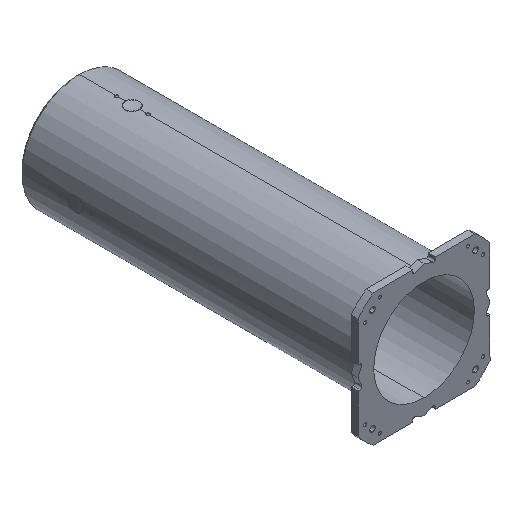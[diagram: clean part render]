
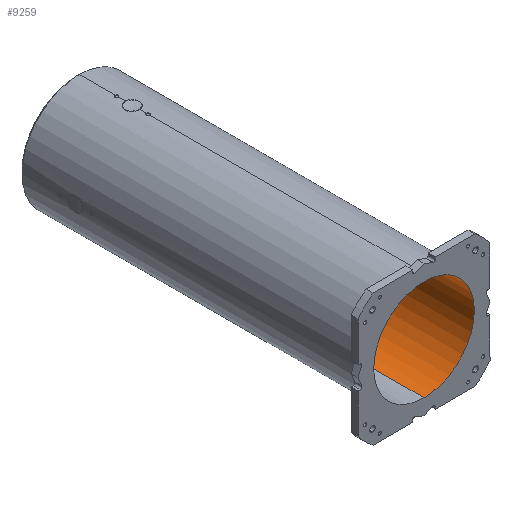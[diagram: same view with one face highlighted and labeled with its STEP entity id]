
A CAD part, isometric view. The second image highlights one B-rep face of the part: STEP entity #9259.
In plain terms, the highlighted cylindrical face has radius 145 mm (diameter 290 mm), a partial arc.
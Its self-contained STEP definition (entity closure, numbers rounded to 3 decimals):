
#91 = CARTESIAN_POINT ( 'NONE',  ( 0., 0., 145. ) ) ;
#275 = DIRECTION ( 'NONE',  ( 0., -1., 0. ) ) ;
#383 = CARTESIAN_POINT ( 'NONE',  ( 0., 0., 0. ) ) ;
#447 = DIRECTION ( 'NONE',  ( 0., 0., -1. ) ) ;
#729 = AXIS2_PLACEMENT_3D ( 'NONE', #383, #4384, #447 ) ;
#874 = CIRCLE ( 'NONE', #3314, 145. ) ;
#1292 = CARTESIAN_POINT ( 'NONE',  ( 0., 0., 145. ) ) ;
#2053 = CARTESIAN_POINT ( 'NONE',  ( 0., 982., -145. ) ) ;
#2219 = DIRECTION ( 'NONE',  ( 0., -1., 0. ) ) ;
#2248 = VERTEX_POINT ( 'NONE', #2507 ) ;
#2507 = CARTESIAN_POINT ( 'NONE',  ( 0., 982., 145. ) ) ;
#2997 = ORIENTED_EDGE ( 'NONE', *, *, #4960, .T. ) ;
#3068 = VERTEX_POINT ( 'NONE', #91 ) ;
#3314 = AXIS2_PLACEMENT_3D ( 'NONE', #5061, #2219, #6572 ) ;
#3780 = CARTESIAN_POINT ( 'NONE',  ( 0., 982., 0. ) ) ;
#3822 = CIRCLE ( 'NONE', #11953, 145. ) ;
#3943 = ORIENTED_EDGE ( 'NONE', *, *, #4796, .T. ) ;
#4384 = DIRECTION ( 'NONE',  ( 0., -1., 0. ) ) ;
#4796 = EDGE_CURVE ( 'NONE', #6836, #3068, #874, .T. ) ;
#4923 = LINE ( 'NONE', #7648, #6142 ) ;
#4960 = EDGE_CURVE ( 'NONE', #10196, #6836, #4923, .T. ) ;
#5061 = CARTESIAN_POINT ( 'NONE',  ( 0., 0., 0. ) ) ;
#5337 = FACE_OUTER_BOUND ( 'NONE', #9042, .T. ) ;
#6142 = VECTOR ( 'NONE', #9062, 1000. ) ;
#6437 = ORIENTED_EDGE ( 'NONE', *, *, #12397, .F. ) ;
#6443 = DIRECTION ( 'NONE',  ( 0., 0., -1. ) ) ;
#6572 = DIRECTION ( 'NONE',  ( 0., 0., -1. ) ) ;
#6690 = DIRECTION ( 'NONE',  ( 0., 1., 0. ) ) ;
#6836 = VERTEX_POINT ( 'NONE', #9457 ) ;
#7414 = CYLINDRICAL_SURFACE ( 'NONE', #729, 145. ) ;
#7648 = CARTESIAN_POINT ( 'NONE',  ( 0., 0., -145. ) ) ;
#7681 = VECTOR ( 'NONE', #275, 1000. ) ;
#9042 = EDGE_LOOP ( 'NONE', ( #6437, #12524, #2997, #3943 ) ) ;
#9062 = DIRECTION ( 'NONE',  ( 0., -1., 0. ) ) ;
#9124 = LINE ( 'NONE', #1292, #7681 ) ;
#9259 = ADVANCED_FACE ( 'NONE', ( #5337 ), #7414, .F. ) ;
#9457 = CARTESIAN_POINT ( 'NONE',  ( 0., 0., -145. ) ) ;
#10196 = VERTEX_POINT ( 'NONE', #2053 ) ;
#11553 = EDGE_CURVE ( 'NONE', #2248, #10196, #3822, .T. ) ;
#11953 = AXIS2_PLACEMENT_3D ( 'NONE', #3780, #6690, #6443 ) ;
#12397 = EDGE_CURVE ( 'NONE', #2248, #3068, #9124, .T. ) ;
#12524 = ORIENTED_EDGE ( 'NONE', *, *, #11553, .T. ) ;
